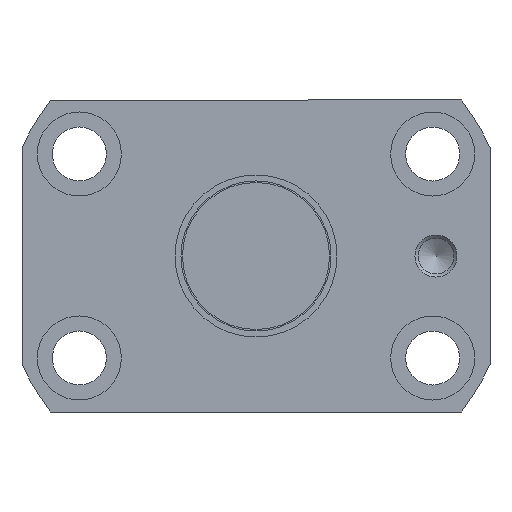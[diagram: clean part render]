
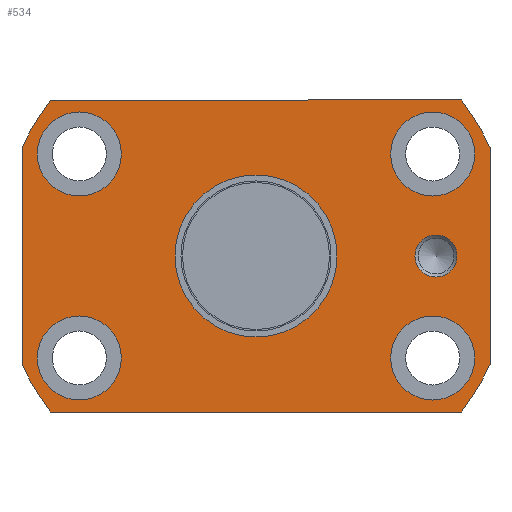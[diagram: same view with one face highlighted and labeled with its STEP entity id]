
A CAD part, left-side view. The second image highlights one B-rep face of the part: STEP entity #534.
In plain terms, the highlighted planar face has unit normal (-1, 0, 0).
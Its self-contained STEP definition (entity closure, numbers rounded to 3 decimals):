
#369=CARTESIAN_POINT('',(767.696,-26.5,0.));
#370=VERTEX_POINT('',#369);
#371=CARTESIAN_POINT('',(767.696,-30.0,0.));
#372=DIRECTION('',(-1.0,0.0,0.0));
#373=DIRECTION('',(0.0,-1.0,0.0));
#374=AXIS2_PLACEMENT_3D('',#371,#372,#373);
#375=CIRCLE('',#374,3.5);
#376=EDGE_CURVE('',#370,#370,#375,.T.);
#401=CARTESIAN_POINT('',(767.696,19.75,0.0));
#402=DIRECTION('',(-1.0,0.0,0.0));
#403=DIRECTION('',(0.0,0.0,1.0));
#404=AXIS2_PLACEMENT_3D('',#401,#402,#403);
#405=PLANE('',#404);
#406=CARTESIAN_POINT('',(767.696,-34.249,-26.));
#407=VERTEX_POINT('',#406);
#408=CARTESIAN_POINT('',(767.696,34.249,-26.0));
#409=VERTEX_POINT('',#408);
#410=CARTESIAN_POINT('',(767.696,-34.249,-26.));
#411=DIRECTION('',(0.0,1.0,0.0));
#412=VECTOR('',#411,68.498);
#413=LINE('',#410,#412);
#414=EDGE_CURVE('',#407,#409,#413,.T.);
#415=ORIENTED_EDGE('',*,*,#414,.F.);
#416=CARTESIAN_POINT('',(767.696,-39.0,-18.111));
#417=VERTEX_POINT('',#416);
#418=CARTESIAN_POINT('',(767.696,0.,0.0));
#419=DIRECTION('',(1.0,0.0,0.0));
#420=DIRECTION('',(0.0,1.0,0.0));
#421=AXIS2_PLACEMENT_3D('',#418,#419,#420);
#422=CIRCLE('',#421,43.0);
#423=EDGE_CURVE('',#417,#407,#422,.T.);
#424=ORIENTED_EDGE('',*,*,#423,.F.);
#425=CARTESIAN_POINT('',(767.696,-39.0,18.111));
#426=VERTEX_POINT('',#425);
#427=CARTESIAN_POINT('',(767.696,-39.0,18.111));
#428=DIRECTION('',(0.0,0.0,-1.0));
#429=VECTOR('',#428,36.222);
#430=LINE('',#427,#429);
#431=EDGE_CURVE('',#426,#417,#430,.T.);
#432=ORIENTED_EDGE('',*,*,#431,.F.);
#433=CARTESIAN_POINT('',(767.696,-34.249,26.));
#434=VERTEX_POINT('',#433);
#435=CARTESIAN_POINT('',(767.696,0.,0.0));
#436=DIRECTION('',(1.0,0.0,0.0));
#437=DIRECTION('',(0.0,1.0,0.0));
#438=AXIS2_PLACEMENT_3D('',#435,#436,#437);
#439=CIRCLE('',#438,43.0);
#440=EDGE_CURVE('',#434,#426,#439,.T.);
#441=ORIENTED_EDGE('',*,*,#440,.F.);
#442=CARTESIAN_POINT('',(767.696,34.249,26.0));
#443=VERTEX_POINT('',#442);
#444=CARTESIAN_POINT('',(767.696,34.249,26.0));
#445=DIRECTION('',(0.0,-1.0,0.0));
#446=VECTOR('',#445,68.498);
#447=LINE('',#444,#446);
#448=EDGE_CURVE('',#443,#434,#447,.T.);
#449=ORIENTED_EDGE('',*,*,#448,.F.);
#450=CARTESIAN_POINT('',(767.696,39.0,18.111));
#451=VERTEX_POINT('',#450);
#452=CARTESIAN_POINT('',(767.696,0.,0.0));
#453=DIRECTION('',(1.0,0.0,0.0));
#454=DIRECTION('',(0.0,1.0,0.0));
#455=AXIS2_PLACEMENT_3D('',#452,#453,#454);
#456=CIRCLE('',#455,43.0);
#457=EDGE_CURVE('',#451,#443,#456,.T.);
#458=ORIENTED_EDGE('',*,*,#457,.F.);
#459=CARTESIAN_POINT('',(767.696,39.,-18.111));
#460=VERTEX_POINT('',#459);
#461=CARTESIAN_POINT('',(767.696,39.,-18.111));
#462=DIRECTION('',(0.0,0.0,1.0));
#463=VECTOR('',#462,36.222);
#464=LINE('',#461,#463);
#465=EDGE_CURVE('',#460,#451,#464,.T.);
#466=ORIENTED_EDGE('',*,*,#465,.F.);
#467=CARTESIAN_POINT('',(767.696,0.,0.0));
#468=DIRECTION('',(1.0,0.0,0.0));
#469=DIRECTION('',(0.0,1.0,0.0));
#470=AXIS2_PLACEMENT_3D('',#467,#468,#469);
#471=CIRCLE('',#470,43.0);
#472=EDGE_CURVE('',#409,#460,#471,.T.);
#473=ORIENTED_EDGE('',*,*,#472,.F.);
#474=EDGE_LOOP('',(#415,#424,#432,#441,#449,#458,#466,#473));
#475=FACE_OUTER_BOUND('',#474,.T.);
#476=CARTESIAN_POINT('',(767.696,13.5,0.0));
#477=VERTEX_POINT('',#476);
#478=CARTESIAN_POINT('',(767.696,0.,0.0));
#479=DIRECTION('',(1.0,0.0,0.0));
#480=DIRECTION('',(0.0,1.0,0.0));
#481=AXIS2_PLACEMENT_3D('',#478,#479,#480);
#482=CIRCLE('',#481,13.5);
#483=EDGE_CURVE('',#477,#477,#482,.T.);
#484=ORIENTED_EDGE('',*,*,#483,.T.);
#485=EDGE_LOOP('',(#484));
#486=FACE_BOUND('',#485,.T.);
#487=CARTESIAN_POINT('',(767.696,-22.445,-17.));
#488=VERTEX_POINT('',#487);
#489=CARTESIAN_POINT('',(767.696,-29.445,-17.));
#490=DIRECTION('',(1.0,0.0,0.0));
#491=DIRECTION('',(0.0,1.0,0.0));
#492=AXIS2_PLACEMENT_3D('',#489,#490,#491);
#493=CIRCLE('',#492,7.);
#494=EDGE_CURVE('',#488,#488,#493,.T.);
#495=ORIENTED_EDGE('',*,*,#494,.T.);
#496=EDGE_LOOP('',(#495));
#497=FACE_BOUND('',#496,.T.);
#498=CARTESIAN_POINT('',(767.696,36.445,17.));
#499=VERTEX_POINT('',#498);
#500=CARTESIAN_POINT('',(767.696,29.445,17.));
#501=DIRECTION('',(1.0,0.0,0.0));
#502=DIRECTION('',(0.0,1.0,0.0));
#503=AXIS2_PLACEMENT_3D('',#500,#501,#502);
#504=CIRCLE('',#503,7.);
#505=EDGE_CURVE('',#499,#499,#504,.T.);
#506=ORIENTED_EDGE('',*,*,#505,.T.);
#507=EDGE_LOOP('',(#506));
#508=FACE_BOUND('',#507,.T.);
#509=CARTESIAN_POINT('',(767.696,-22.445,17.));
#510=VERTEX_POINT('',#509);
#511=CARTESIAN_POINT('',(767.696,-29.445,17.));
#512=DIRECTION('',(1.0,0.0,0.0));
#513=DIRECTION('',(0.0,1.0,0.0));
#514=AXIS2_PLACEMENT_3D('',#511,#512,#513);
#515=CIRCLE('',#514,7.);
#516=EDGE_CURVE('',#510,#510,#515,.T.);
#517=ORIENTED_EDGE('',*,*,#516,.T.);
#518=EDGE_LOOP('',(#517));
#519=FACE_BOUND('',#518,.T.);
#520=CARTESIAN_POINT('',(767.696,36.445,-17.));
#521=VERTEX_POINT('',#520);
#522=CARTESIAN_POINT('',(767.696,29.445,-17.));
#523=DIRECTION('',(1.0,0.0,0.0));
#524=DIRECTION('',(0.0,1.0,0.0));
#525=AXIS2_PLACEMENT_3D('',#522,#523,#524);
#526=CIRCLE('',#525,7.);
#527=EDGE_CURVE('',#521,#521,#526,.T.);
#528=ORIENTED_EDGE('',*,*,#527,.T.);
#529=EDGE_LOOP('',(#528));
#530=FACE_BOUND('',#529,.T.);
#531=ORIENTED_EDGE('',*,*,#376,.F.);
#532=EDGE_LOOP('',(#531));
#533=FACE_BOUND('',#532,.T.);
#534=ADVANCED_FACE('',(#475,#486,#497,#508,#519,#530,#533),#405,.T.);
